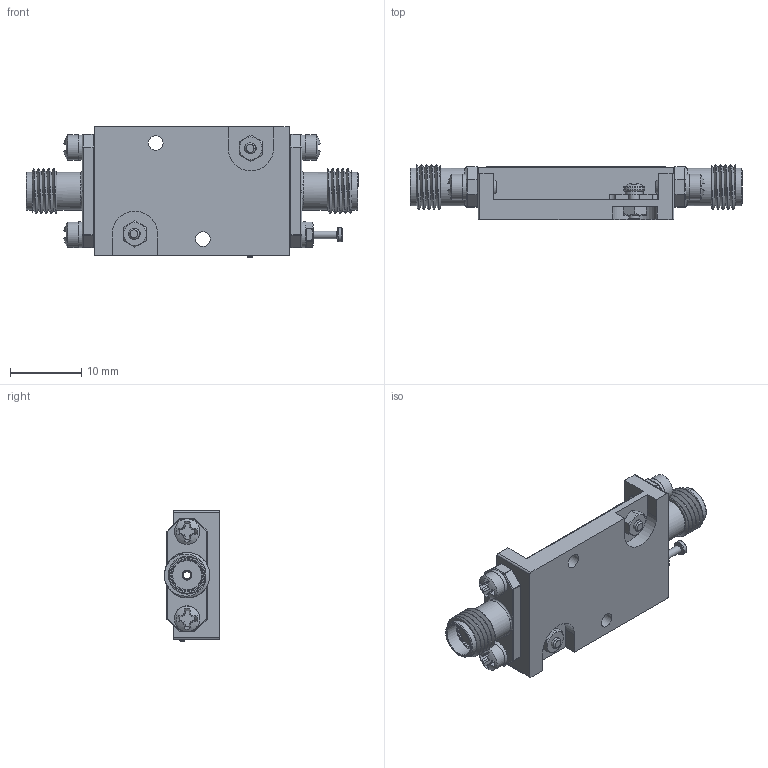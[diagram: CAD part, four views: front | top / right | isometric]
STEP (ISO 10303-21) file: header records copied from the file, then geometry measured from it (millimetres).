
FILE_DESCRIPTION (( 'STEP AP214' ), '1' );
FILE_NAME ('PE2-30-3R58R5-1R5-10-12-SFF.STEP', '2026-01-13T15:01:01', ( '' ), ( '' ), 'SwSTEP 2.0', 'SolidWorks 2025', '' );
FILE_SCHEMA (( 'AUTOMOTIVE_DESIGN' ));
Length unit declared in the file: inch
Products named in the file (1): PE2-30-3R58R5-1R5-10-12-SFF
Bounding box: 46.48 x 7.73 x 18.29 mm (x, y, z)
Surface area: 3334.8 mm2 (no closed solid volume)
Topology: 0 solids, 28 shells, 585 faces, 2473 edges, 1989 vertices
Faces by surface type: plane 323, cylinder 131, cone 44, torus 34, sphere 33, bspline 20
Full cylindrical faces by diameter (mm): 0.635 x1, 1.016 x2, 1.067 x1, 1.524 x2, 1.702 x2, 1.93 x2, 2.057 x2, 2.184 x4, 2.515 x2, 2.896 x1, 2.946 x2, 3.556 x3, 4.191 x2, 4.597 x2, 5.283 x4
Entity records: 38711 total; most frequent: CARTESIAN_POINT 12097, ORIENTED_EDGE 4450, DIRECTION 3356, EDGE_CURVE 2376, VERTEX_POINT 1982, LINE 1216, VECTOR 1216, AXIS2_PLACEMENT_3D 1070
